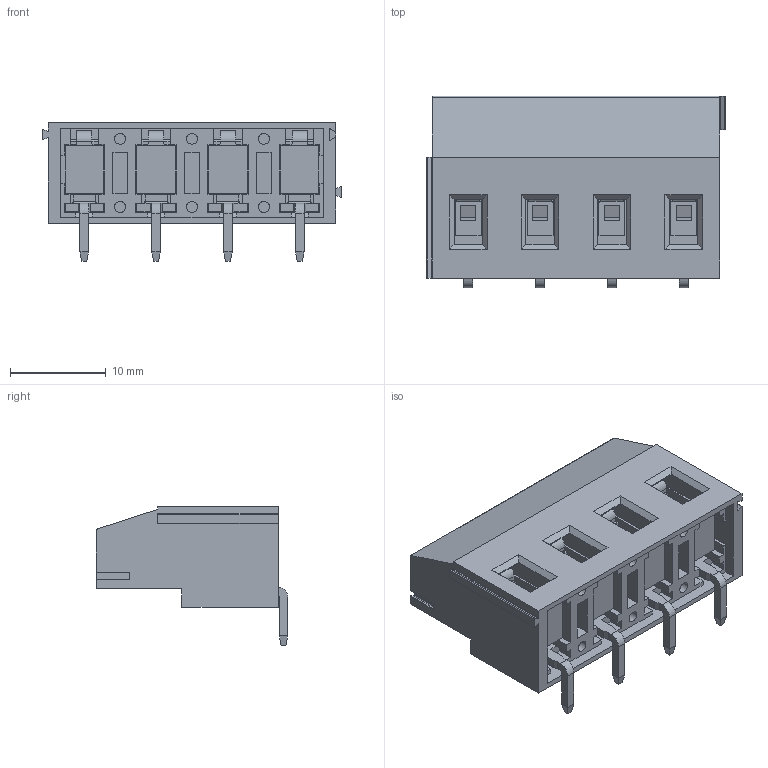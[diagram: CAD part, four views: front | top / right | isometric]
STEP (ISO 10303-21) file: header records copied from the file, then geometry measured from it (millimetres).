
FILE_DESCRIPTION((''),'2;1');
FILE_NAME('PRT0001','2021-04-26T',('guoxue_sz'),(''),'CREO PARAMETRIC BY PTC INC, 2016260','CREO PARAMETRIC BY PTC INC, 2016260','');
FILE_SCHEMA(('CONFIG_CONTROL_DESIGN'));
Products named in the file (1): PRT0001
Bounding box: 31.2 x 20 x 14.5 mm (x, y, z)
Volume: 3311.6 mm3; surface area: 6601 mm2
Topology: 1 solids, 1 shells, 1046 faces, 2865 edges, 1861 vertices
Faces by surface type: plane 606, cylinder 216, bspline 184, cone 24, torus 16
Entity records: 53072 total; most frequent: CARTESIAN_POINT 27612, ORIENTED_EDGE 5730, DIRECTION 4462, EDGE_CURVE 2865, VECTOR 1888, LINE 1888, VERTEX_POINT 1861, AXIS2_PLACEMENT_3D 1287
